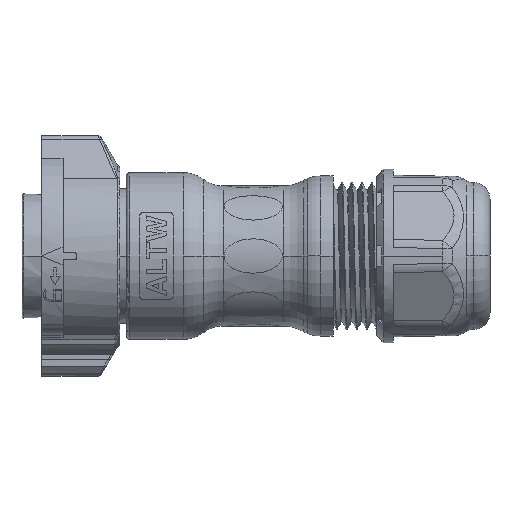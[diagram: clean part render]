
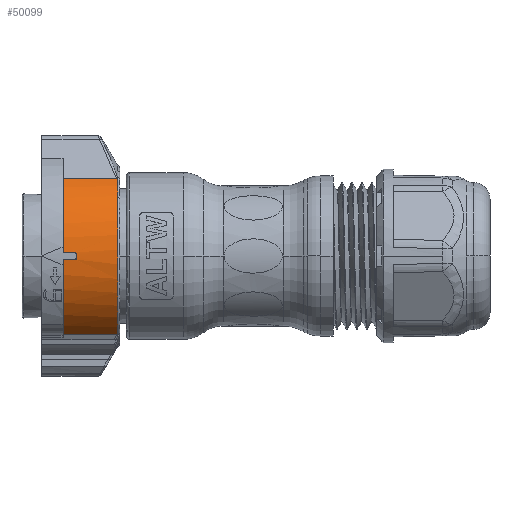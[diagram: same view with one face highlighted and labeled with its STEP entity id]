
A CAD part, front view. The second image highlights one B-rep face of the part: STEP entity #50099.
In plain terms, the highlighted cylindrical face has radius 13.55 mm (diameter 27.1 mm), a partial arc.
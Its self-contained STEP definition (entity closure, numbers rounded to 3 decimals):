
#15917=CARTESIAN_POINT('',(25.783,-13.549,
-0.186));
#15918=CARTESIAN_POINT('',(25.783,-13.55,
-0.062));
#15919=CARTESIAN_POINT('',(25.783,-13.55,
0.062));
#15920=CARTESIAN_POINT('',(25.783,-13.549,
0.186));
#15922=DIRECTION('',(-1.,0.,0.));
#15923=VECTOR('',#15922,1.686);
#15924=CARTESIAN_POINT('',(25.384,-13.537,
0.586));
#15925=LINE('',#15924,#15923);
#15926=DIRECTION('',(-1.,0.,0.));
#15927=VECTOR('',#15926,8.005);
#15928=CARTESIAN_POINT('',(31.703,-7.03,
11.584));
#15929=LINE('',#15928,#15927);
#15930=CARTESIAN_POINT('',(31.898,0.,0.));
#15931=DIRECTION('',(1.,0.,0.));
#15932=DIRECTION('',(0.,-0.497,0.868));
#15933=AXIS2_PLACEMENT_3D('',#15930,#15931,#15932);
#15935=DIRECTION('',(-1.,0.,0.));
#15936=VECTOR('',#15935,8.003);
#15937=CARTESIAN_POINT('',(31.701,-6.774,
-11.735));
#15938=LINE('',#15937,#15936);
#15939=DIRECTION('',(-1.,0.,0.));
#15940=VECTOR('',#15939,1.686);
#15941=CARTESIAN_POINT('',(25.384,-13.537,
-0.586));
#15942=LINE('',#15941,#15940);
#15951=CARTESIAN_POINT('',(25.783,-13.549,
-0.186));
#15952=CARTESIAN_POINT('',(25.783,-13.548,
-0.207));
#15953=CARTESIAN_POINT('',(25.78,-13.548,
-0.249));
#15954=CARTESIAN_POINT('',(25.765,-13.546,
-0.31));
#15955=CARTESIAN_POINT('',(25.741,-13.545,
-0.368));
#15956=CARTESIAN_POINT('',(25.708,-13.543,
-0.422));
#15957=CARTESIAN_POINT('',(25.667,-13.542,
-0.47));
#15958=CARTESIAN_POINT('',(25.619,-13.54,
-0.511));
#15959=CARTESIAN_POINT('',(25.566,-13.539,
-0.544));
#15960=CARTESIAN_POINT('',(25.508,-13.538,
-0.568));
#15961=CARTESIAN_POINT('',(25.447,-13.537,
-0.583));
#15962=CARTESIAN_POINT('',(25.405,-13.537,
-0.586));
#15963=CARTESIAN_POINT('',(25.384,-13.537,
-0.586));
#15973=CARTESIAN_POINT('',(23.698,0.,0.));
#15974=DIRECTION('',(1.,0.,0.));
#15975=DIRECTION('',(0.,-0.999,-0.043));
#15976=AXIS2_PLACEMENT_3D('',#15973,#15974,#15975);
#16005=CARTESIAN_POINT('',(31.701,-6.774,
-11.735));
#16011=CARTESIAN_POINT('',(31.701,-6.774,
-11.735));
#16012=CARTESIAN_POINT('',(31.711,-6.774,
-11.735));
#16013=CARTESIAN_POINT('',(31.732,-6.772,
-11.736));
#16014=CARTESIAN_POINT('',(31.76,-6.765,
-11.741));
#16015=CARTESIAN_POINT('',(31.787,-6.752,
-11.748));
#16016=CARTESIAN_POINT('',(31.813,-6.733,
-11.759));
#16017=CARTESIAN_POINT('',(31.836,-6.707,
-11.773));
#16018=CARTESIAN_POINT('',(31.857,-6.675,
-11.792));
#16019=CARTESIAN_POINT('',(31.874,-6.637,
-11.813));
#16020=CARTESIAN_POINT('',(31.887,-6.592,
-11.839));
#16021=CARTESIAN_POINT('',(31.896,-6.54,
-11.867));
#16022=CARTESIAN_POINT('',(31.898,-6.502,
-11.888));
#16023=CARTESIAN_POINT('',(31.898,-6.481,
-11.899));
#16284=CARTESIAN_POINT('',(23.698,0.,0.));
#16285=DIRECTION('',(1.,0.,0.));
#16286=DIRECTION('',(0.,-0.519,0.855));
#16287=AXIS2_PLACEMENT_3D('',#16284,#16285,#16286);
#16293=CARTESIAN_POINT('',(25.384,-13.537,
0.586));
#16294=CARTESIAN_POINT('',(25.405,-13.537,
0.586));
#16295=CARTESIAN_POINT('',(25.447,-13.537,
0.583));
#16296=CARTESIAN_POINT('',(25.508,-13.538,
0.568));
#16297=CARTESIAN_POINT('',(25.566,-13.539,
0.544));
#16298=CARTESIAN_POINT('',(25.619,-13.54,
0.511));
#16299=CARTESIAN_POINT('',(25.667,-13.542,
0.47));
#16300=CARTESIAN_POINT('',(25.708,-13.543,
0.422));
#16301=CARTESIAN_POINT('',(25.741,-13.545,
0.368));
#16302=CARTESIAN_POINT('',(25.765,-13.546,
0.31));
#16303=CARTESIAN_POINT('',(25.78,-13.548,
0.249));
#16304=CARTESIAN_POINT('',(25.783,-13.548,
0.207));
#16305=CARTESIAN_POINT('',(25.783,-13.549,
0.186));
#17648=CARTESIAN_POINT('',(31.898,-6.732,
11.76));
#17649=CARTESIAN_POINT('',(31.898,-6.752,
11.748));
#17650=CARTESIAN_POINT('',(31.896,-6.792,
11.725));
#17651=CARTESIAN_POINT('',(31.887,-6.844,
11.695));
#17652=CARTESIAN_POINT('',(31.875,-6.889,
11.668));
#17653=CARTESIAN_POINT('',(31.858,-6.929,
11.645));
#17654=CARTESIAN_POINT('',(31.837,-6.962,
11.625));
#17655=CARTESIAN_POINT('',(31.813,-6.988,
11.609));
#17656=CARTESIAN_POINT('',(31.788,-7.007,
11.598));
#17657=CARTESIAN_POINT('',(31.761,-7.02,
11.59));
#17658=CARTESIAN_POINT('',(31.733,-7.028,
11.585));
#17659=CARTESIAN_POINT('',(31.713,-7.03,
11.584));
#17660=CARTESIAN_POINT('',(31.703,-7.03,
11.584));
#32603=CARTESIAN_POINT('',(23.698,-7.03,
11.584));
#32605=VERTEX_POINT('',#32603);
#32662=CARTESIAN_POINT('',(31.898,-6.732,
11.76));
#32664=VERTEX_POINT('',#32662);
#32669=CARTESIAN_POINT('',(31.898,-6.481,
-11.899));
#32671=VERTEX_POINT('',#32669);
#32672=CARTESIAN_POINT('',(31.703,-7.03,
11.584));
#32673=VERTEX_POINT('',#32672);
#32784=CARTESIAN_POINT('',(23.698,-6.774,
-11.735));
#32785=VERTEX_POINT('',#32784);
#32798=VERTEX_POINT('',#16005);
#32825=CARTESIAN_POINT('',(23.698,-13.537,
0.586));
#32826=VERTEX_POINT('',#32825);
#32827=CARTESIAN_POINT('',(23.698,-13.537,
-0.586));
#32828=VERTEX_POINT('',#32827);
#33508=CARTESIAN_POINT('',(25.384,-13.537,
-0.586));
#33510=VERTEX_POINT('',#33508);
#33512=CARTESIAN_POINT('',(25.783,-13.549,
-0.186));
#33513=VERTEX_POINT('',#33512);
#33515=CARTESIAN_POINT('',(25.783,-13.549,
0.186));
#33517=VERTEX_POINT('',#33515);
#33519=CARTESIAN_POINT('',(25.384,-13.537,
0.586));
#33520=VERTEX_POINT('',#33519);
#50070=CARTESIAN_POINT('',(32.783,0.,0.));
#50071=DIRECTION('',(-1.,0.,0.));
#50072=DIRECTION('',(0.,0.,1.));
#50073=AXIS2_PLACEMENT_3D('',#50070,#50071,#50072);
#50074=CYLINDRICAL_SURFACE('',#50073,13.55);
#50076=ORIENTED_EDGE('',*,*,#50075,.T.);
#50078=ORIENTED_EDGE('',*,*,#50077,.F.);
#50080=ORIENTED_EDGE('',*,*,#50079,.T.);
#50082=ORIENTED_EDGE('',*,*,#50081,.F.);
#50083=ORIENTED_EDGE('',*,*,#50056,.F.);
#50085=ORIENTED_EDGE('',*,*,#50084,.F.);
#50086=ORIENTED_EDGE('',*,*,#48657,.T.);
#50088=ORIENTED_EDGE('',*,*,#50087,.F.);
#50090=ORIENTED_EDGE('',*,*,#50089,.T.);
#50092=ORIENTED_EDGE('',*,*,#50091,.F.);
#50094=ORIENTED_EDGE('',*,*,#50093,.F.);
#50096=ORIENTED_EDGE('',*,*,#50095,.F.);
#50097=EDGE_LOOP('',(#50076,#50078,#50080,#50082,#50083,#50085,#50086,#50088,
#50090,#50092,#50094,#50096));
#50098=FACE_OUTER_BOUND('',#50097,.F.);
#50099=ADVANCED_FACE('',(#50098),#50074,.T.);
#15921=B_SPLINE_CURVE_WITH_KNOTS('',3,(#15917,#15918,#15919,#15920),
.UNSPECIFIED.,.F.,.F.,(4,4),(0.,1.),.UNSPECIFIED.);
#15934=CIRCLE('',#15933,13.55);
#15964=B_SPLINE_CURVE_WITH_KNOTS('',3,(#15951,#15952,#15953,#15954,#15955,
#15956,#15957,#15958,#15959,#15960,#15961,#15962,#15963),.UNSPECIFIED.,.F.,.F.,(
4,1,1,1,1,1,1,1,1,1,4),(0.,0.1,0.2,0.3,0.4,0.5,0.6,0.7,0.8,
0.9,1.),.UNSPECIFIED.);
#15977=CIRCLE('',#15976,13.55);
#16024=B_SPLINE_CURVE_WITH_KNOTS('',3,(#16011,#16012,#16013,#16014,#16015,
#16016,#16017,#16018,#16019,#16020,#16021,#16022,#16023),.UNSPECIFIED.,.F.,.F.,(
4,1,1,1,1,1,1,1,1,1,4),(0.,0.1,0.2,0.3,0.4,0.5,0.6,0.7,0.8,
0.9,1.),.UNSPECIFIED.);
#16288=CIRCLE('',#16287,13.55);
#16306=B_SPLINE_CURVE_WITH_KNOTS('',3,(#16293,#16294,#16295,#16296,#16297,
#16298,#16299,#16300,#16301,#16302,#16303,#16304,#16305),.UNSPECIFIED.,.F.,.F.,(
4,1,1,1,1,1,1,1,1,1,4),(0.,0.1,0.2,0.3,0.4,0.5,0.6,0.7,0.8,
0.9,1.),.UNSPECIFIED.);
#17661=B_SPLINE_CURVE_WITH_KNOTS('',3,(#17648,#17649,#17650,#17651,#17652,
#17653,#17654,#17655,#17656,#17657,#17658,#17659,#17660),.UNSPECIFIED.,.F.,.F.,(
4,1,1,1,1,1,1,1,1,1,4),(0.,0.1,0.2,0.3,0.4,0.5,0.6,0.7,0.8,
0.9,1.),.UNSPECIFIED.);
#48657=EDGE_CURVE('',#32664,#32671,#15934,.T.);
#50056=EDGE_CURVE('',#32673,#32605,#15929,.T.);
#50075=EDGE_CURVE('',#33513,#33517,#15921,.T.);
#50077=EDGE_CURVE('',#33520,#33517,#16306,.T.);
#50079=EDGE_CURVE('',#33520,#32826,#15925,.T.);
#50081=EDGE_CURVE('',#32605,#32826,#16288,.T.);
#50084=EDGE_CURVE('',#32664,#32673,#17661,.T.);
#50087=EDGE_CURVE('',#32798,#32671,#16024,.T.);
#50089=EDGE_CURVE('',#32798,#32785,#15938,.T.);
#50091=EDGE_CURVE('',#32828,#32785,#15977,.T.);
#50093=EDGE_CURVE('',#33510,#32828,#15942,.T.);
#50095=EDGE_CURVE('',#33513,#33510,#15964,.T.);
